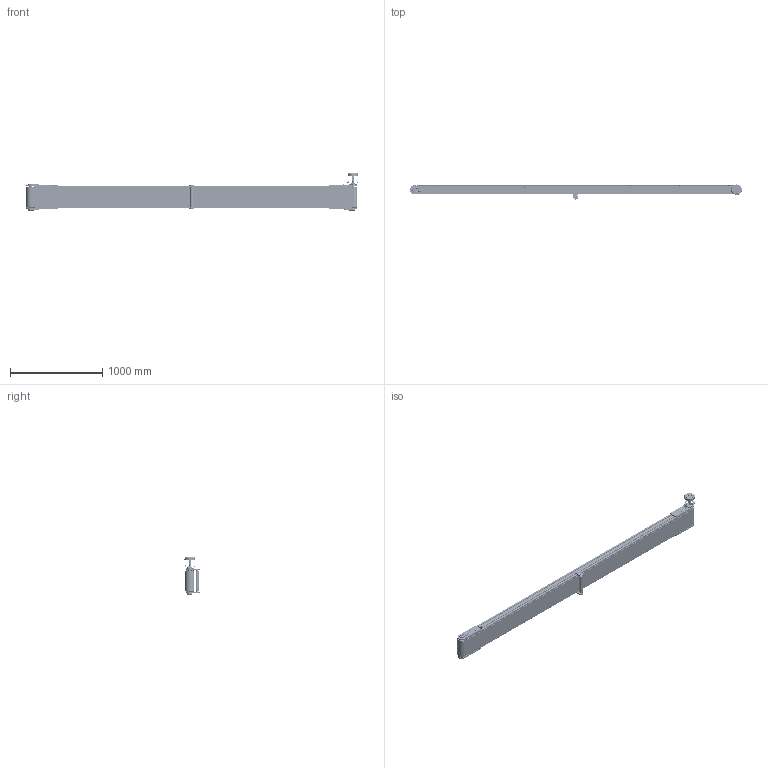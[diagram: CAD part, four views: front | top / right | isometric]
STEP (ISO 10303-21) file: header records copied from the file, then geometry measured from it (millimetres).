
FILE_DESCRIPTION (( 'STEP AP203' ), '1' );
FILE_NAME ('NASTRO_RETTILINEO_TAPPETO.step', '2026-04-21T08:38:36', ( 'Utente Windows' ), ( '' ), 'SwSTEP 2.0', 'SolidWorks 2024', '' );
FILE_SCHEMA (( 'CONFIG_CONTROL_DESIGN' ));
Length unit declared in the file: millimetre
Products named in the file (51): 084.302.060; 084.802.028; 084.812.002; 25UNI7435; 084.301.000 VITI ALUSIC_084.301.003; 084.810.003; BLOCCO_REGGITAPPETO; 084.303.001; BLOCCO_PERNO_95_RINVIO; 084.802.034_084.802.034; 084.802.071; 084.802.013-2; LAMIERA_STANDARD; VITI TE UNI 5739_M8x12 UNI 5739; BLOCCO_TRAINO_95_STANDARD_CON TENDINASTRO E CARTER; 084.803.017; 084.812.003; VITE_DADO_M5X12; TELAIO_95_STANDARD_Default<A macchina>; 084.803.003; RULLO_REGGITAPPETO; 084.808.002_084.808.002; VITI TE UNI 5739_M8x16 UNI 5739; VITI TSEI UNI 5933_M4x12 UNI 5933; RULLO_95_Default<A macchina>; BLOCCO_RINVIO_95_STANDARD_CON TENDINASTRO E CARTER; 084.808.003_084.808.003; CHIAVETTE_A 8x7x70 UNI 6604-69; VITI TE UNI 5739_M6x12 UNI 5739; TAPPETO_STANDARD; 084.802.067_Default<A macchina>; VITI TCEI UNI 5931_M6x12 UNI 5931; 084.802.014; 084.302.000 DADI ALUSIC 13x13-1_084.302.004; VITE_RONDELLA_M8X20; 084.802.019_084.802.019; BLOCCO_TRAINO_95_STANDARD_49_DX_CON TENDINASTRO E SENZA CARTER; RONDELLE FASCIA LARGA UNI 6593_8.4x32 UNI 6593; 084.808.013; 084.302.000 DADI ALUSIC 13x13-1_084.302.007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
Assembly tree (145 placements, depth 4):
  NASTRO_RETTILINEO_TAPPETO
    TAPPETO_STANDARD
    TELAIO_95_STANDARD_Default<A macchina>
    LAMIERA_STANDARD  x2
    RULLO_95_Default<A macchina>  x2
    BLOCCO_PERNO_95_49
      084.812.002
      084.810.003
      CHIAVETTE_A 8x7x70 UNI 6604-69
      CHIAVETTE_A 8x7x20 UNI 6604-69
      RONDELLE FASCIA LARGA UNI 6593_8.4x32 UNI 6593
      VITI TE UNI 5739_M8x16 UNI 5739
      25UNI7435
      30UNI7435
    BLOCCO_TRAINO_95_STANDARD_49_DX_CON TENDINASTRO E SENZA CARTER
      084.808.003_084.808.003
      084.302.060  x2
      084.802.034_084.802.034
      084.301.000 VITI ALUSIC_084.301.003  x6
      084.802.067_Default<A macchina>
      VITI TCEI UNI 5931_M4x25 UNI 5931  x2
      BLOCCO_BRACCIO_CH05P_CH05P
        084.808.013
        084.802.062
        084.802.060_Default<A macchina>
        VITI TE UNI 5739_M8x12 UNI 5739  x4
        VITI TE UNI 5739_M6x12 UNI 5739  x4
        084.803.017
        VITI TCEI UNI 5931_M6x12 UNI 5931  x4
    BLOCCO_PERNO_95_RINVIO  x3
      084.812.003
      084.810.003
      30UNI7435
    BLOCCO_TRAINO_95_STANDARD_CON TENDINASTRO E CARTER
      084.808.002_084.808.002
      084.302.060  x2
      084.802.019_084.802.019
      084.301.000 VITI ALUSIC_084.301.003  x6
      VITI TCEI UNI 5931_M4x25 UNI 5931  x2
      084.802.071
      084.802.068
      VITI TSEI UNI 5933_M4x12 UNI 5933  x2
    BLOCCO_RINVIO_95_STANDARD_CON TENDINASTRO E CARTER  x2
      084.808.002_084.808.002
      084.803.003
      084.302.060
      084.802.019_084.802.019
      VITI TSEI UNI 5933_M4x12 UNI 5933
      084.302.000 DADI ALUSIC 13x13-1_084.302.004
      084.301.000 VITI ALUSIC_084.301.003
      084.802.071
    VITE_RONDELLA_M8X20  x25
      084.303.001
      084.301.000 VITI ALUSIC_084.301.003
    VITE_DADO_M5X12  x16
      084.302.000 DADI ALUSIC 13x13-1_084.302.007
      VITI TSEI UNI 5933_M5x12 UNI 5933
    BLOCCO_REGGITAPPETO  x2
      084.301.000 VITI ALUSIC_084.301.003
      084.302.000 DADI ALUSIC 13x13-1_084.302.004
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Bounding box: 3606.5 x 163.5 x 404 mm (x, y, z)
Volume: 15862046.7 mm3; surface area: 12666093.9 mm2
Topology: 240 solids, 245 shells, 8838 faces, 22724 edges, 14573 vertices
Faces by surface type: plane 4657, cylinder 2221, cone 789, bspline 612, torus 495, sphere 64
Entity records: 165480 total; most frequent: CARTESIAN_POINT 48462, ORIENTED_EDGE 23746, DIRECTION 21707, EDGE_CURVE 11873, VERTEX_POINT 7672, AXIS2_PLACEMENT_3D 7394, VECTOR 6919, LINE 6919
